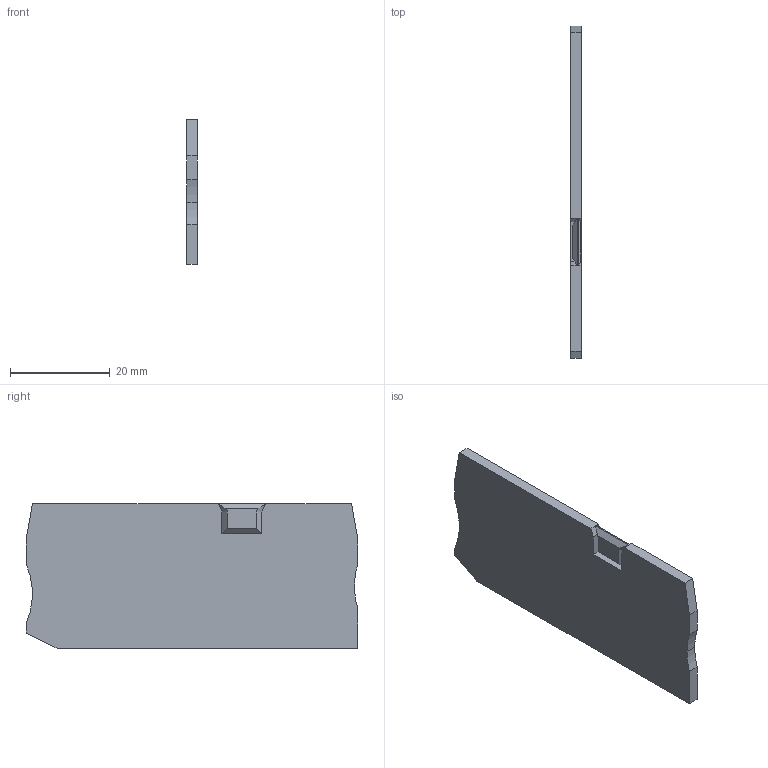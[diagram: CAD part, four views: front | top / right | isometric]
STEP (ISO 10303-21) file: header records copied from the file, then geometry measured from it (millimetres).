
FILE_DESCRIPTION(('TFLEX Exchange Step'),'2;1');
FILE_NAME('14000095_К-КНБ_4-3.stp', '2025-06-24T11:19:25+03:00',('MVarava'),('Unknown organisation'),'TFLEX Exchange 2023.0','T-FLEX CAD','Unknown authorisation');
FILE_SCHEMA( ('AUTOMOTIVE_DESIGN { 1 0 10303 214 1 1 1 1 }') );
Length unit declared in the file: millimetre
Products named in the file (1): Nodes
Bounding box: 2.2 x 66.4 x 29 mm (x, y, z)
Volume: 4118.4 mm3; surface area: 4244.1 mm2
Topology: 1 solids, 1 shells, 261 faces, 744 edges, 492 vertices
Faces by surface type: cylinder 166, plane 95
Entity records: 8538 total; most frequent: CARTESIAN_POINT 1684, ORIENTED_EDGE 1488, DIRECTION 1446, EDGE_CURVE 744, AXIS2_PLACEMENT_3D 538, VERTEX_POINT 492, VECTOR 370, LINE 370
